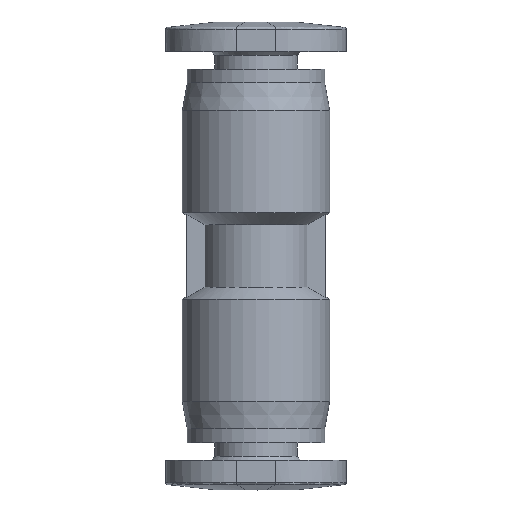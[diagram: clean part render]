
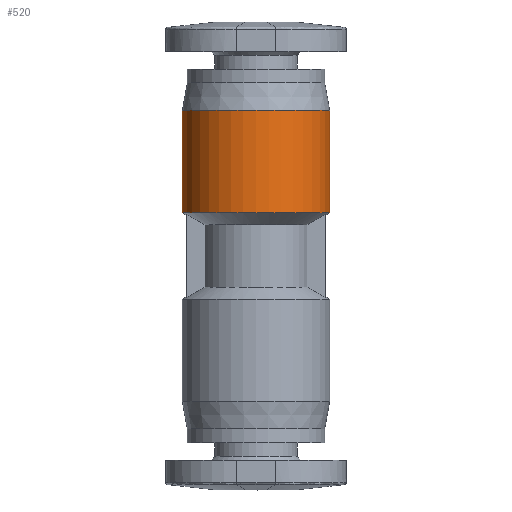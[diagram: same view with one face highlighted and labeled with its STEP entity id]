
A CAD part, top view. The second image highlights one B-rep face of the part: STEP entity #520.
In plain terms, the highlighted cylindrical face has radius 3.75 mm (diameter 7.5 mm), a partial arc.
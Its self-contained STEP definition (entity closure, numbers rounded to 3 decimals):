
#126 = EDGE_CURVE ( 'NONE', #2808, #3354, #1669, .T. ) ;
#171 = DIRECTION ( 'NONE',  ( -1., 0., 0. ) ) ;
#366 = CARTESIAN_POINT ( 'NONE',  ( 0., 2.2, 0. ) ) ;
#431 = AXIS2_PLACEMENT_3D ( 'NONE', #3913, #1471, #171 ) ;
#458 = VERTEX_POINT ( 'NONE', #1530 ) ;
#520 = ADVANCED_FACE ( 'NONE', ( #1191 ), #2186, .T. ) ;
#618 = AXIS2_PLACEMENT_3D ( 'NONE', #3870, #3504, #1826 ) ;
#773 = VECTOR ( 'NONE', #1686, 1000. ) ;
#828 = DIRECTION ( 'NONE',  ( 0., 1., 0. ) ) ;
#1191 = FACE_OUTER_BOUND ( 'NONE', #3990, .T. ) ;
#1193 = CARTESIAN_POINT ( 'NONE',  ( 3.75, 7.4, 0. ) ) ;
#1471 = DIRECTION ( 'NONE',  ( 0., 1., 0. ) ) ;
#1513 = LINE ( 'NONE', #2912, #2394 ) ;
#1530 = CARTESIAN_POINT ( 'NONE',  ( -3.75, 7.4, 0. ) ) ;
#1669 = CIRCLE ( 'NONE', #2098, 3.75 ) ;
#1686 = DIRECTION ( 'NONE',  ( 0., 1., 0. ) ) ;
#1826 = DIRECTION ( 'NONE',  ( -1., 0., 0. ) ) ;
#1909 = VERTEX_POINT ( 'NONE', #1193 ) ;
#1922 = CARTESIAN_POINT ( 'NONE',  ( 3.75, 2.2, 0. ) ) ;
#1972 = EDGE_CURVE ( 'NONE', #3354, #1909, #1513, .T. ) ;
#2002 = LINE ( 'NONE', #4066, #773 ) ;
#2098 = AXIS2_PLACEMENT_3D ( 'NONE', #366, #3731, #3420 ) ;
#2186 = CYLINDRICAL_SURFACE ( 'NONE', #431, 3.75 ) ;
#2394 = VECTOR ( 'NONE', #828, 1000. ) ;
#2542 = CIRCLE ( 'NONE', #618, 3.75 ) ;
#2688 = ORIENTED_EDGE ( 'NONE', *, *, #126, .T. ) ;
#2808 = VERTEX_POINT ( 'NONE', #3677 ) ;
#2882 = ORIENTED_EDGE ( 'NONE', *, *, #4069, .F. ) ;
#2912 = CARTESIAN_POINT ( 'NONE',  ( 3.75, 4.8, 0. ) ) ;
#3353 = ORIENTED_EDGE ( 'NONE', *, *, #1972, .T. ) ;
#3354 = VERTEX_POINT ( 'NONE', #1922 ) ;
#3420 = DIRECTION ( 'NONE',  ( -1., 0., 0. ) ) ;
#3486 = EDGE_CURVE ( 'NONE', #458, #1909, #2542, .T. ) ;
#3504 = DIRECTION ( 'NONE',  ( 0., 1., 0. ) ) ;
#3677 = CARTESIAN_POINT ( 'NONE',  ( -3.75, 2.2, 0. ) ) ;
#3731 = DIRECTION ( 'NONE',  ( 0., 1., 0. ) ) ;
#3870 = CARTESIAN_POINT ( 'NONE',  ( 0., 7.4, 0. ) ) ;
#3913 = CARTESIAN_POINT ( 'NONE',  ( 0., 4.8, 0. ) ) ;
#3990 = EDGE_LOOP ( 'NONE', ( #2688, #3353, #4348, #2882 ) ) ;
#4066 = CARTESIAN_POINT ( 'NONE',  ( -3.75, 4.8, 0. ) ) ;
#4069 = EDGE_CURVE ( 'NONE', #2808, #458, #2002, .T. ) ;
#4348 = ORIENTED_EDGE ( 'NONE', *, *, #3486, .F. ) ;
